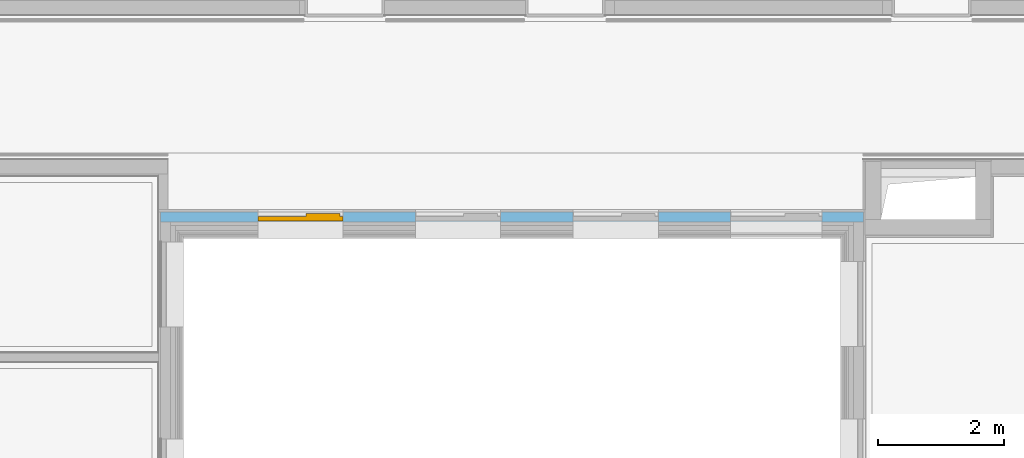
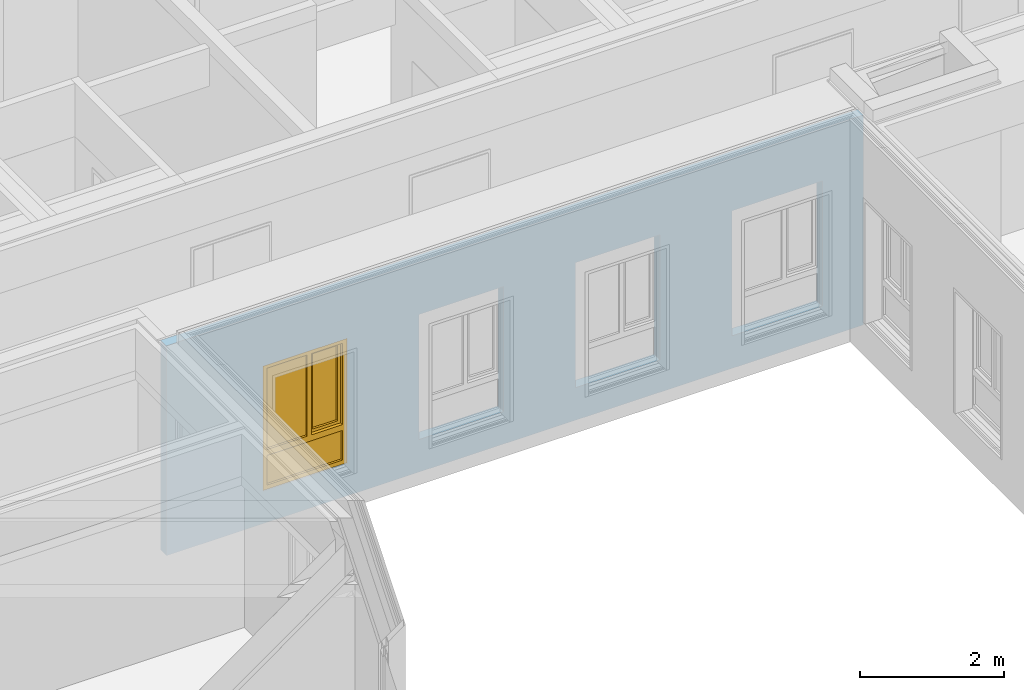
# One storey, part 77 of 222: 1 window, 4 openings, plus 1 element that does not belong to this part.
"""IFC4 building model written with IfcOpenShell, lengths in metres."""

from ifc_helpers import new_model, entity, si_unit, converted_unit, derived_unit, frame, frame_2d, origin, origin_with_axes, place, context, subcontext, project, spatial, polyline, rectangle, outline, extrude, closed_shell, open_shell, surface_model, source, transform, mapped, material, element, fill, save


model = new_model("IFC4")

# Units and contexts
model_context = context("Model", 3, precision=1e-05, world=origin())
body_context = subcontext(model_context, "Body", "Model", "MODEL_VIEW")
ifc_project = project(units=[si_unit("LENGTHUNIT", "METRE"), si_unit("AREAUNIT", "SQUARE_METRE"), si_unit("VOLUMEUNIT", "CUBIC_METRE"), si_unit("MASSUNIT", "GRAM", prefix="KILO"), converted_unit("PLANEANGLEUNIT", "DEGREE", entity("IfcPlaneAngleMeasure", 0.0174532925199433), si_unit("PLANEANGLEUNIT", "RADIAN"), dimensions=[0, 0, 0, 0, 0, 0, 0]), derived_unit("THERMALTRANSMITTANCEUNIT", [(si_unit("POWERUNIT", "WATT"), 1), (si_unit("THERMODYNAMICTEMPERATUREUNIT", "KELVIN"), -1), (si_unit("LENGTHUNIT", "METRE"), -2)]), derived_unit("VOLUMETRICFLOWRATEUNIT", [(si_unit("LENGTHUNIT", "METRE"), 3), (converted_unit("TIMEUNIT", "hour", entity("IfcTimeMeasure", 3600.0), si_unit("TIMEUNIT", "SECOND"), dimensions=[0, 0, 1, 0, 0, 0, 0]), -1), (si_unit("LENGTHUNIT", "METRE"), -1)])], contexts=[model_context])

# Site, building, storey
site_placement = place(None, origin())
site = spatial("IfcSite", under=ifc_project, at=site_placement, Name="Psychiatrie Neubau Wunstorf", CompositionType="ELEMENT")
building_placement = place(site_placement, origin())
building = spatial("IfcBuilding", under=site, at=building_placement, Name="Neubau H2 Stationsgebäude", CompositionType="ELEMENT")
storey_placement = place(building_placement, frame((0.0, 0.0, 3.6)))
storey = spatial("IfcBuildingStorey", under=building, at=storey_placement, Name="H2 Ebene +1", CompositionType="ELEMENT", Elevation=3.6)

# Wall, openings, window
ifc_material = material(Name="WA-DL")
wall_placement = place(storey_placement, frame((26.825, 21.0016528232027, 0.0), z_axis=(0.0, 0.0, 1.0), x_axis=(-1.0, 0.0, 0.0)))
wall = element("IfcWall", 1, at=wall_placement, inside=storey, material=ifc_material, context=body_context, shape_type="SweptSolid", body=[
    extrude(rectangle(XDim=11.15, YDim=0.16, at=frame_2d((5.575, 0.08), x_axis=(1.0, 0.0))), origin_with_axes(), (0.0, 0.0, 1.0), 3.55),
])
opening_1_placement = place(wall_placement, frame((2.10483590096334, 0.16, 0.55), z_axis=(0.0, -1.0, 0.0), x_axis=(0.0, 0.0, 1.0)))
element("IfcOpeningElement", 2, at=opening_1_placement, cuts=wall, Name="Fensteröffnung", ObjectType="Opening", context=body_context, shape_type="SweptSolid", body=[
    extrude(outline(polyline([(2.115, 1.45), (2.115, 0.0), (0.0, 0.0), (0.0, 1.45), (2.115, 1.45)])), origin_with_axes(), (0.0, 0.0, 1.0), 0.16),
])
opening_2_placement = place(wall_placement, frame((4.60474878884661, 0.16, 0.55), z_axis=(0.0, -1.0, 0.0), x_axis=(0.0, 0.0, 1.0)))
element("IfcOpeningElement", 3, at=opening_2_placement, cuts=wall, Name="Fensteröffnung", ObjectType="Opening", context=body_context, shape_type="SweptSolid", body=[
    extrude(outline(polyline([(2.115, 1.35), (2.115, 0.0), (0.0, 0.0), (0.0, 1.35), (2.115, 1.35)])), origin_with_axes(), (0.0, 0.0, 1.0), 0.16),
])
opening_3_placement = place(wall_placement, frame((7.1047487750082, 0.16, 0.55), z_axis=(0.0, -1.0, 0.0), x_axis=(0.0, 0.0, 1.0)))
element("IfcOpeningElement", 4, at=opening_3_placement, cuts=wall, Name="Fensteröffnung", ObjectType="Opening", context=body_context, shape_type="SweptSolid", body=[
    extrude(outline(polyline([(2.115, 1.35), (2.115, 0.0), (0.0, 0.0), (0.0, 1.35), (2.115, 1.35)])), origin_with_axes(), (0.0, 0.0, 1.0), 0.16),
])
opening_4_placement = place(wall_placement, frame((9.60474878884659, 0.16, 0.55), z_axis=(0.0, -1.0, 0.0), x_axis=(0.0, 0.0, 1.0)))
opening_4 = element("IfcOpeningElement", 5, at=opening_4_placement, cuts=wall, Name="Fensteröffnung", ObjectType="Opening", context=body_context, shape_type="SweptSolid", body=[
    extrude(outline(polyline([(2.115, 1.35), (2.115, 0.0), (0.0, 0.0), (0.0, 1.35), (2.115, 1.35)])), origin_with_axes(), (0.0, 0.0, 1.0), 0.16),
])
shared_shape = source(origin_with_axes(), body_context, "Body", "SurfaceModel", [
    surface_model("IfcShellBasedSurfaceModel", [(0.0, 0.000347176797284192, 2.115), (0.07, 0.000347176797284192, 2.115), (0.07, 0.000347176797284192, 0.0), (0.0, 0.000347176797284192, 0.0), (0.0, 0.0703471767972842, 0.0), (0.07, 0.0703471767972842, 0.0), (0.07, 0.0703471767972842, 2.115), (0.0, 0.0703471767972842, 2.115)], [closed_shell([[[0, 1, 2, 3]], [[4, 5, 6, 7]], [[3, 4, 7, 0]], [[2, 5, 4, 3]], [[1, 6, 5, 2]], [[0, 7, 6, 1]]], orient=[[False], [False], [False], [False], [False], [False]])]),
    surface_model("IfcShellBasedSurfaceModel", [(1.28, 0.000347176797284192, 2.115), (1.35, 0.000347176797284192, 2.115), (1.35, 0.000347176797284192, 0.0), (1.28, 0.000347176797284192, 0.0), (1.28, 0.0703471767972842, 0.0), (1.35, 0.0703471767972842, 0.0), (1.35, 0.0703471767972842, 2.115), (1.28, 0.0703471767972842, 2.115)], [closed_shell([[[0, 1, 2, 3]], [[4, 5, 6, 7]], [[3, 4, 7, 0]], [[2, 5, 4, 3]], [[1, 6, 5, 2]], [[0, 7, 6, 1]]], orient=[[False], [False], [False], [False], [False], [False]])]),
    surface_model("IfcShellBasedSurfaceModel", [(0.07, 0.000347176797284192, 0.07), (1.28, 0.000347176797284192, 0.07), (1.28, 0.000347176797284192, 0.0), (0.07, 0.000347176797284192, 0.0), (0.07, 0.0703471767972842, 0.0), (1.28, 0.0703471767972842, 0.0), (1.28, 0.0703471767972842, 0.07), (0.07, 0.0703471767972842, 0.07)], [closed_shell([[[0, 1, 2, 3]], [[4, 5, 6, 7]], [[3, 4, 7, 0]], [[2, 5, 4, 3]], [[1, 6, 5, 2]], [[0, 7, 6, 1]]], orient=[[False], [False], [False], [False], [False], [False]])]),
    surface_model("IfcShellBasedSurfaceModel", [(0.07, 0.000347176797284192, 2.115), (1.28, 0.000347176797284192, 2.115), (1.28, 0.000347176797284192, 2.045), (0.07, 0.000347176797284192, 2.045), (0.07, 0.0703471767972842, 2.045), (1.28, 0.0703471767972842, 2.045), (1.28, 0.0703471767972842, 2.115), (0.07, 0.0703471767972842, 2.115)], [closed_shell([[[0, 1, 2, 3]], [[4, 5, 6, 7]], [[3, 4, 7, 0]], [[2, 5, 4, 3]], [[1, 6, 5, 2]], [[0, 7, 6, 1]]], orient=[[False], [False], [False], [False], [False], [False]])]),
    surface_model("IfcShellBasedSurfaceModel", [(0.07, 0.000347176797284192, 0.67), (1.28, 0.000347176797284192, 0.67), (1.28, 0.000347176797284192, 0.57), (0.07, 0.000347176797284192, 0.57), (0.07, 0.0703471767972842, 0.57), (1.28, 0.0703471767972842, 0.57), (1.28, 0.0703471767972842, 0.67), (0.07, 0.0703471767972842, 0.67)], [closed_shell([[[0, 1, 2, 3]], [[4, 5, 6, 7]], [[3, 4, 7, 0]], [[2, 5, 4, 3]], [[1, 6, 5, 2]], [[0, 7, 6, 1]]], orient=[[False], [False], [False], [False], [False], [False]])]),
    surface_model("IfcShellBasedSurfaceModel", [(0.07, 0.0353471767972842, 0.07), (0.07, 0.0353471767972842, 0.57), (1.28, 0.0353471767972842, 0.57), (1.28, 0.0353471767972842, 0.07)], [open_shell([[[0, 1, 2, 3]]], orient=[[False]])]),
    surface_model("IfcShellBasedSurfaceModel", [(0.565700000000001, 0.000347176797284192, 2.045), (0.635700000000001, 0.000347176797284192, 2.045), (0.635700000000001, 0.000347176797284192, 0.67), (0.565700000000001, 0.000347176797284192, 0.67), (0.565700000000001, 0.0703471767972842, 0.67), (0.635700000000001, 0.0703471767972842, 0.67), (0.635700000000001, 0.0703471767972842, 2.045), (0.565700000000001, 0.0703471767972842, 2.045)], [closed_shell([[[0, 1, 2, 3]], [[4, 5, 6, 7]], [[3, 4, 7, 0]], [[2, 5, 4, 3]], [[1, 6, 5, 2]], [[0, 7, 6, 1]]], orient=[[False], [False], [False], [False], [False], [False]])]),
    surface_model("IfcShellBasedSurfaceModel", [(0.05, -0.0496528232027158, 2.065), (0.12, -0.0496528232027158, 2.065), (0.12, -0.0496528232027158, 0.65), (0.05, -0.0496528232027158, 0.65), (0.05, 0.0203471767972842, 0.65), (0.12, 0.0203471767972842, 0.65), (0.12, 0.0203471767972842, 2.065), (0.05, 0.0203471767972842, 2.065)], [closed_shell([[[0, 1, 2, 3]], [[4, 5, 6, 7]], [[3, 4, 7, 0]], [[2, 5, 4, 3]], [[1, 6, 5, 2]], [[0, 7, 6, 1]]], orient=[[False], [False], [False], [False], [False], [False]])]),
    surface_model("IfcShellBasedSurfaceModel", [(0.515700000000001, -0.0496528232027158, 2.065), (0.585700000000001, -0.0496528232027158, 2.065), (0.585700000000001, -0.0496528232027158, 0.65), (0.515700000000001, -0.0496528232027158, 0.65), (0.515700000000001, 0.0203471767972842, 0.65), (0.585700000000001, 0.0203471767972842, 0.65), (0.585700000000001, 0.0203471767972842, 2.065), (0.515700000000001, 0.0203471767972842, 2.065)], [closed_shell([[[0, 1, 2, 3]], [[4, 5, 6, 7]], [[3, 4, 7, 0]], [[2, 5, 4, 3]], [[1, 6, 5, 2]], [[0, 7, 6, 1]]], orient=[[False], [False], [False], [False], [False], [False]])]),
    surface_model("IfcShellBasedSurfaceModel", [(0.12, -0.0496528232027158, 0.72), (0.515700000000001, -0.0496528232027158, 0.72), (0.515700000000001, -0.0496528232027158, 0.65), (0.12, -0.0496528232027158, 0.65), (0.12, 0.0203471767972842, 0.65), (0.515700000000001, 0.0203471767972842, 0.65), (0.515700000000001, 0.0203471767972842, 0.72), (0.12, 0.0203471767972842, 0.72)], [closed_shell([[[0, 1, 2, 3]], [[4, 5, 6, 7]], [[3, 4, 7, 0]], [[2, 5, 4, 3]], [[1, 6, 5, 2]], [[0, 7, 6, 1]]], orient=[[False], [False], [False], [False], [False], [False]])]),
    surface_model("IfcShellBasedSurfaceModel", [(0.12, -0.0496528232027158, 2.065), (0.515700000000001, -0.0496528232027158, 2.065), (0.515700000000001, -0.0496528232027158, 1.995), (0.12, -0.0496528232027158, 1.995), (0.12, 0.0203471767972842, 1.995), (0.515700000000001, 0.0203471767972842, 1.995), (0.515700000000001, 0.0203471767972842, 2.065), (0.12, 0.0203471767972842, 2.065)], [closed_shell([[[0, 1, 2, 3]], [[4, 5, 6, 7]], [[3, 4, 7, 0]], [[2, 5, 4, 3]], [[1, 6, 5, 2]], [[0, 7, 6, 1]]], orient=[[False], [False], [False], [False], [False], [False]])]),
    surface_model("IfcShellBasedSurfaceModel", [(0.635700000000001, 0.0353471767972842, 0.67), (0.635700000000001, 0.0353471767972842, 2.045), (1.28, 0.0353471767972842, 2.045), (1.28, 0.0353471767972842, 0.67)], [open_shell([[[0, 1, 2, 3]]], orient=[[False]])]),
    surface_model("IfcShellBasedSurfaceModel", [(0.12, -0.0146528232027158, 0.72), (0.12, -0.0146528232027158, 1.995), (0.515700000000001, -0.0146528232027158, 1.995), (0.515700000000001, -0.0146528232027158, 0.72)], [open_shell([[[0, 1, 2, 3]]], orient=[[False]])]),
])
window_placement = place(opening_4_placement, frame((0.0, 1.35, 0.0863471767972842), z_axis=(1.0, 0.0, 0.0), x_axis=(0.0, -1.0, 0.0)))
window = element("IfcWindow", 6, at=window_placement, inside=storey, Name="Fenster", OverallHeight=2.115, OverallWidth=1.35, PartitioningType="USERDEFINED", PredefinedType="WINDOW", context=body_context, shape_type="MappedRepresentation", body=[
    mapped(shared_shape, transform((0.0, 0.0, 0.0), x_axis=(1.0, 0.0, 0.0), y_axis=(0.0, 1.0, 0.0), z_axis=(0.0, 0.0, 1.0), scale=1.0)),
])
fill(opening_4, window)

save(model, "model.ifc")
